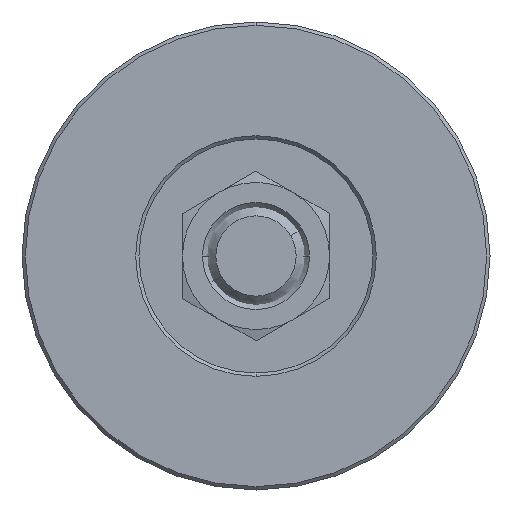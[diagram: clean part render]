
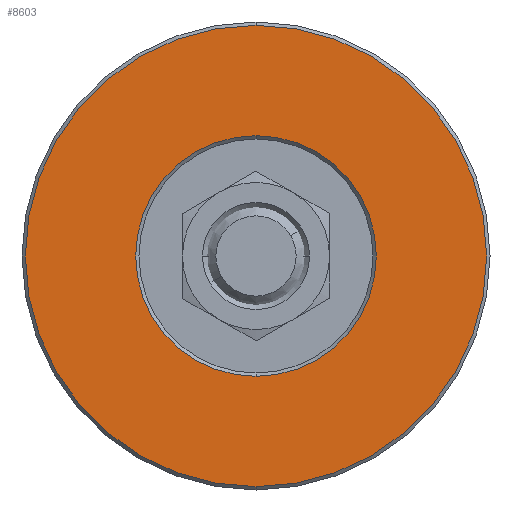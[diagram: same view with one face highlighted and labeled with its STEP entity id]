
A CAD part, front view. The second image highlights one B-rep face of the part: STEP entity #8603.
In plain terms, the highlighted planar face has unit normal (0, -1, 0).
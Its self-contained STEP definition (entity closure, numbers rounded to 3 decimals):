
#236 = CARTESIAN_POINT ( 'NONE',  ( 17.5, 0., 0. ) ) ;
#334 = EDGE_CURVE ( 'NONE', #627, #2963, #2537, .T. ) ;
#600 = CIRCLE ( 'NONE', #3307, 34.5 ) ;
#627 = VERTEX_POINT ( 'NONE', #3873 ) ;
#700 = CARTESIAN_POINT ( 'NONE',  ( 0., 0., 34.5 ) ) ;
#937 = AXIS2_PLACEMENT_3D ( 'NONE', #8062, #7417, #5401 ) ;
#1001 = ORIENTED_EDGE ( 'NONE', *, *, #3610, .T. ) ;
#1321 = CARTESIAN_POINT ( 'NONE',  ( 0., 0., 0. ) ) ;
#1407 = DIRECTION ( 'NONE',  ( 0., -1., 0. ) ) ;
#1617 = DIRECTION ( 'NONE',  ( 0., 0., -1. ) ) ;
#1876 = EDGE_LOOP ( 'NONE', ( #1001, #2217 ) ) ;
#2015 = ORIENTED_EDGE ( 'NONE', *, *, #334, .T. ) ;
#2147 = AXIS2_PLACEMENT_3D ( 'NONE', #236, #2299, #1617 ) ;
#2171 = EDGE_LOOP ( 'NONE', ( #5453, #2015 ) ) ;
#2173 = CARTESIAN_POINT ( 'NONE',  ( 0., 0., 0. ) ) ;
#2217 = ORIENTED_EDGE ( 'NONE', *, *, #7366, .T. ) ;
#2299 = DIRECTION ( 'NONE',  ( 0., -1., 0. ) ) ;
#2537 = CIRCLE ( 'NONE', #937, 34.5 ) ;
#2566 = CIRCLE ( 'NONE', #7892, 18. ) ;
#2745 = VERTEX_POINT ( 'NONE', #3428 ) ;
#2963 = VERTEX_POINT ( 'NONE', #700 ) ;
#3307 = AXIS2_PLACEMENT_3D ( 'NONE', #1321, #1407, #6600 ) ;
#3428 = CARTESIAN_POINT ( 'NONE',  ( 0., 0., -18. ) ) ;
#3521 = CARTESIAN_POINT ( 'NONE',  ( 0., 0., 18. ) ) ;
#3527 = EDGE_CURVE ( 'NONE', #2963, #627, #600, .T. ) ;
#3610 = EDGE_CURVE ( 'NONE', #2745, #7732, #2566, .T. ) ;
#3611 = FACE_BOUND ( 'NONE', #1876, .T. ) ;
#3867 = AXIS2_PLACEMENT_3D ( 'NONE', #4084, #4726, #7957 ) ;
#3873 = CARTESIAN_POINT ( 'NONE',  ( 0., 0., -34.5 ) ) ;
#4084 = CARTESIAN_POINT ( 'NONE',  ( 0., 0., 0. ) ) ;
#4341 = FACE_OUTER_BOUND ( 'NONE', #2171, .T. ) ;
#4726 = DIRECTION ( 'NONE',  ( 0., 1., 0. ) ) ;
#4812 = DIRECTION ( 'NONE',  ( 0., 0., -1. ) ) ;
#5401 = DIRECTION ( 'NONE',  ( 0., 0., -1. ) ) ;
#5453 = ORIENTED_EDGE ( 'NONE', *, *, #3527, .T. ) ;
#6600 = DIRECTION ( 'NONE',  ( 0., 0., -1. ) ) ;
#7366 = EDGE_CURVE ( 'NONE', #7732, #2745, #8533, .T. ) ;
#7417 = DIRECTION ( 'NONE',  ( 0., -1., 0. ) ) ;
#7523 = PLANE ( 'NONE',  #2147 ) ;
#7732 = VERTEX_POINT ( 'NONE', #3521 ) ;
#7892 = AXIS2_PLACEMENT_3D ( 'NONE', #2173, #8040, #4812 ) ;
#7957 = DIRECTION ( 'NONE',  ( 0., 0., -1. ) ) ;
#8040 = DIRECTION ( 'NONE',  ( 0., 1., 0. ) ) ;
#8062 = CARTESIAN_POINT ( 'NONE',  ( 0., 0., 0. ) ) ;
#8533 = CIRCLE ( 'NONE', #3867, 18. ) ;
#8603 = ADVANCED_FACE ( 'NONE', ( #4341, #3611 ), #7523, .T. ) ;
